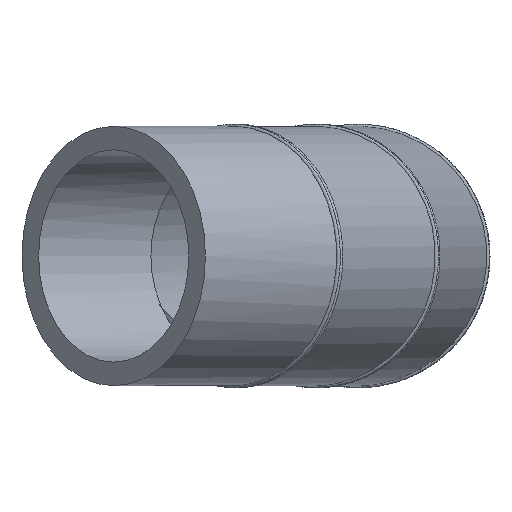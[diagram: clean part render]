
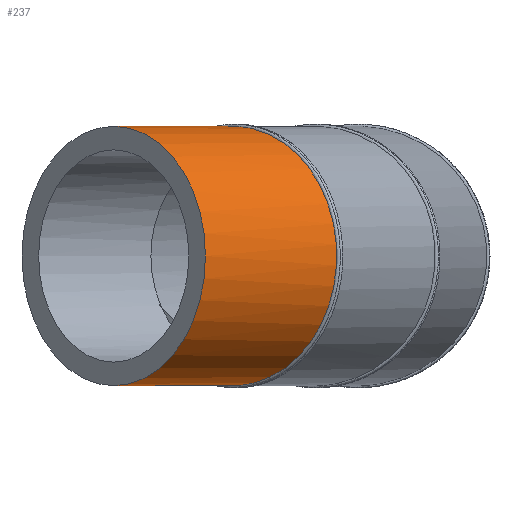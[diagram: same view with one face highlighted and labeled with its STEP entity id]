
A CAD part, front view. The second image highlights one B-rep face of the part: STEP entity #237.
In plain terms, the highlighted cylindrical face has radius 250 mm (diameter 500 mm), a full revolution.
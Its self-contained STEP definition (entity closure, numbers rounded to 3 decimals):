
#41=B_SPLINE_CURVE_WITH_KNOTS('',3,(#403,#404,#405,#406,#407,#408,#409,
#410,#411,#412,#413,#414,#415,#416,#417,#418,#419,#420,#421,#422,#423,#424,
#425,#426,#427,#428,#429,#430,#431,#432,#433,#434,#435,#436,#437,#438,#439,
#440,#441,#442,#443,#444,#445,#446,#447,#448,#449,#450,#451,#452,#453,#454,
#455,#456,#457,#458,#459,#460,#461,#462,#463,#464,#465,#466,#467,#468,#469,
#470,#471,#472,#473,#474,#475,#476,#477,#478,#479,#480,#481,#482,#483,#484,
#485,#486,#487,#488,#489,#490,#491,#492,#493,#494,#495,#496,#497),
 .UNSPECIFIED.,.T.,.F.,(1,1,1,1,1,1,1,1,1,1,1,1,1,1,1,1,1,1,1,1,1,1,1,1,
1,1,1,1,1,1,1,1,1,1,1,1,1,1,1,1,1,1,1,1,1,1,1,1,1,1,1,1,1,1,1,1,1,1,1,1,
1,1,1,1,1,1,1,1,1,1,1,1,1,1,1,1,1,1,1,1,1,1,1,1,1,1,1,1,1,1,1,1,1,1,1,1,
1,1,1),(-0.037,-0.025,-0.012,0.,
0.012,0.025,0.05,0.062,
0.074,0.099,0.124,0.149,
0.161,0.173,0.198,0.223,
0.235,0.248,0.272,0.297,
0.309,0.322,0.334,0.347,
0.359,0.371,0.396,0.421,
0.446,0.47,0.483,0.495,
0.507,0.52,0.545,0.569,
0.582,0.594,0.606,0.619,
0.631,0.644,0.656,0.668,
0.693,0.705,0.718,0.743,
0.767,0.78,0.792,0.817,
0.842,0.866,0.879,0.891,
0.903,0.916,0.941,0.965,
0.99,1.015,1.027,1.04,1.052,
1.064,1.089,1.114,1.126,1.139,
1.151,1.163,1.176,1.188,1.213,
1.238,1.25,1.262,1.287,1.312,
1.324,1.337,1.361,1.386,1.411,
1.423,1.436,1.448,1.46,1.485,
1.51,1.535,1.547,1.559,1.572,
1.584,1.596,1.609,1.634),
 .UNSPECIFIED.);
#50=CYLINDRICAL_SURFACE('',#287,250.);
#82=ORIENTED_EDGE('',*,*,#134,.T.);
#83=ORIENTED_EDGE('',*,*,#127,.F.);
#127=EDGE_CURVE('',#153,#153,#173,.T.);
#134=EDGE_CURVE('',#160,#160,#41,.T.);
#153=VERTEX_POINT('',#388);
#160=VERTEX_POINT('',#498);
#173=CIRCLE('',#279,250.);
#179=EDGE_LOOP('',(#82));
#180=EDGE_LOOP('',(#83));
#207=FACE_BOUND('',#179,.T.);
#208=FACE_BOUND('',#180,.T.);
#237=ADVANCED_FACE('',(#207,#208),#50,.T.);
#279=AXIS2_PLACEMENT_3D('',#387,#317,#318);
#287=AXIS2_PLACEMENT_3D('',#402,#333,#334);
#317=DIRECTION('',(0.,1.,0.));
#318=DIRECTION('',(-1.,0.,0.));
#333=DIRECTION('',(0.,1.,0.));
#334=DIRECTION('',(-1.,0.,0.));
#387=CARTESIAN_POINT('',(1180.48,177.5,0.));
#388=CARTESIAN_POINT('',(930.48,177.5,0.));
#402=CARTESIAN_POINT('',(1180.48,-188.326,0.));
#403=CARTESIAN_POINT('',(930.684,-114.492,-12.359));
#404=CARTESIAN_POINT('',(930.378,-114.452,-0.005));
#405=CARTESIAN_POINT('',(930.685,-114.492,12.381));
#406=CARTESIAN_POINT('',(931.905,-114.653,28.8));
#407=CARTESIAN_POINT('',(934.347,-114.973,45.137));
#408=CARTESIAN_POINT('',(937.978,-115.451,61.187));
#409=CARTESIAN_POINT('',(942.409,-116.033,77.078));
#410=CARTESIAN_POINT('',(949.375,-116.948,96.403));
#411=CARTESIAN_POINT('',(960.017,-118.347,118.738));
#412=CARTESIAN_POINT('',(970.614,-119.739,136.288));
#413=CARTESIAN_POINT('',(980.144,-120.992,149.72));
#414=CARTESIAN_POINT('',(990.241,-122.319,162.558));
#415=CARTESIAN_POINT('',(1003.913,-124.116,177.541));
#416=CARTESIAN_POINT('',(1018.96,-126.094,191.12));
#417=CARTESIAN_POINT('',(1031.833,-127.787,201.133));
#418=CARTESIAN_POINT('',(1045.275,-129.554,210.564));
#419=CARTESIAN_POINT('',(1062.804,-131.859,221.027));
#420=CARTESIAN_POINT('',(1081.359,-134.3,229.765));
#421=CARTESIAN_POINT('',(1096.59,-136.304,235.611));
#422=CARTESIAN_POINT('',(1108.238,-137.836,239.44));
#423=CARTESIAN_POINT('',(1120.073,-139.393,242.696));
#424=CARTESIAN_POINT('',(1132.012,-140.964,245.358));
#425=CARTESIAN_POINT('',(1144.07,-142.551,247.436));
#426=CARTESIAN_POINT('',(1160.32,-144.69,249.42));
#427=CARTESIAN_POINT('',(1180.669,-147.369,250.401));
#428=CARTESIAN_POINT('',(1205.216,-150.601,249.173));
#429=CARTESIAN_POINT('',(1229.192,-153.758,245.605));
#430=CARTESIAN_POINT('',(1248.786,-156.339,240.726));
#431=CARTESIAN_POINT('',(1264.202,-158.37,235.67));
#432=CARTESIAN_POINT('',(1275.664,-159.88,231.28));
#433=CARTESIAN_POINT('',(1286.89,-161.359,226.333));
#434=CARTESIAN_POINT('',(1301.488,-163.283,219.03));
#435=CARTESIAN_POINT('',(1319.117,-165.607,208.521));
#436=CARTESIAN_POINT('',(1335.557,-167.773,196.389));
#437=CARTESIAN_POINT('',(1348.021,-169.417,185.69));
#438=CARTESIAN_POINT('',(1356.939,-170.593,177.235));
#439=CARTESIAN_POINT('',(1365.426,-171.712,168.36));
#440=CARTESIAN_POINT('',(1373.492,-172.775,159.05));
#441=CARTESIAN_POINT('',(1381.094,-173.777,149.347));
#442=CARTESIAN_POINT('',(1388.191,-174.714,139.307));
#443=CARTESIAN_POINT('',(1394.796,-175.585,128.916));
#444=CARTESIAN_POINT('',(1402.937,-176.658,114.592));
#445=CARTESIAN_POINT('',(1409.966,-177.586,99.773));
#446=CARTESIAN_POINT('',(1415.915,-178.37,84.387));
#447=CARTESIAN_POINT('',(1421.064,-179.049,68.819));
#448=CARTESIAN_POINT('',(1426.019,-179.703,49.078));
#449=CARTESIAN_POINT('',(1429.033,-180.101,28.951));
#450=CARTESIAN_POINT('',(1430.263,-180.263,12.626));
#451=CARTESIAN_POINT('',(1430.688,-180.319,-3.882));
#452=CARTESIAN_POINT('',(1429.694,-180.188,-24.409));
#453=CARTESIAN_POINT('',(1426.062,-179.709,-48.918));
#454=CARTESIAN_POINT('',(1421.06,-179.049,-68.848));
#455=CARTESIAN_POINT('',(1415.873,-178.365,-84.505));
#456=CARTESIAN_POINT('',(1411.425,-177.778,-95.993));
#457=CARTESIAN_POINT('',(1406.419,-177.118,-107.25));
#458=CARTESIAN_POINT('',(1398.984,-176.137,-121.96));
#459=CARTESIAN_POINT('',(1388.411,-174.743,-139.526));
#460=CARTESIAN_POINT('',(1373.64,-172.794,-159.343));
#461=CARTESIAN_POINT('',(1357.243,-170.633,-177.344));
#462=CARTESIAN_POINT('',(1342.216,-168.651,-190.936));
#463=CARTESIAN_POINT('',(1329.387,-166.96,-200.939));
#464=CARTESIAN_POINT('',(1319.328,-165.634,-208.018));
#465=CARTESIAN_POINT('',(1308.953,-164.267,-214.58));
#466=CARTESIAN_POINT('',(1294.74,-162.394,-222.624));
#467=CARTESIAN_POINT('',(1276.197,-159.95,-231.384));
#468=CARTESIAN_POINT('',(1256.996,-157.421,-238.248));
#469=CARTESIAN_POINT('',(1241.211,-155.341,-242.615));
#470=CARTESIAN_POINT('',(1229.268,-153.768,-245.295));
#471=CARTESIAN_POINT('',(1217.219,-152.182,-247.387));
#472=CARTESIAN_POINT('',(1205.046,-150.579,-248.891));
#473=CARTESIAN_POINT('',(1192.825,-148.969,-249.795));
#474=CARTESIAN_POINT('',(1176.534,-146.825,-250.202));
#475=CARTESIAN_POINT('',(1156.081,-144.132,-249.208));
#476=CARTESIAN_POINT('',(1135.926,-141.48,-246.236));
#477=CARTESIAN_POINT('',(1119.941,-139.376,-242.663));
#478=CARTESIAN_POINT('',(1104.253,-137.312,-238.337));
#479=CARTESIAN_POINT('',(1085.212,-134.807,-231.559));
#480=CARTESIAN_POINT('',(1066.909,-132.399,-222.973));
#481=CARTESIAN_POINT('',(1052.725,-130.534,-215.009));
#482=CARTESIAN_POINT('',(1038.827,-128.706,-206.282));
#483=CARTESIAN_POINT('',(1022.369,-126.542,-194.171));
#484=CARTESIAN_POINT('',(1004.033,-124.131,-177.675));
#485=CARTESIAN_POINT('',(990.233,-122.318,-162.555));
#486=CARTESIAN_POINT('',(980.065,-120.981,-149.615));
#487=CARTESIAN_POINT('',(972.952,-120.046,-139.58));
#488=CARTESIAN_POINT('',(966.339,-119.177,-129.206));
#489=CARTESIAN_POINT('',(958.18,-118.105,-114.895));
#490=CARTESIAN_POINT('',(949.358,-116.946,-96.364));
#491=CARTESIAN_POINT('',(940.972,-115.844,-73.07));
#492=CARTESIAN_POINT('',(935.954,-115.185,-53.157));
#493=CARTESIAN_POINT('',(933.114,-114.812,-36.895));
#494=CARTESIAN_POINT('',(931.597,-114.612,-24.655));
#495=CARTESIAN_POINT('',(930.684,-114.492,-12.359));
#496=CARTESIAN_POINT('',(930.378,-114.452,-0.005));
#497=CARTESIAN_POINT('',(930.685,-114.492,12.381));
#498=CARTESIAN_POINT('',(930.48,-114.465,0.));
